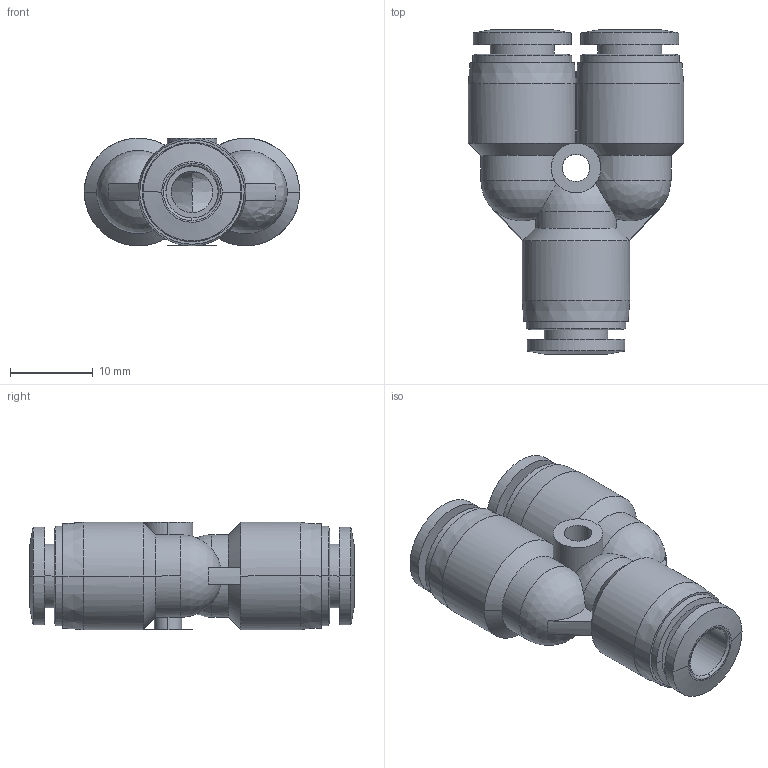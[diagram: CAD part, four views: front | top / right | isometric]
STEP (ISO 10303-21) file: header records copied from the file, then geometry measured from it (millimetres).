
FILE_DESCRIPTION (( 'STEP AP203' ), '1' );
FILE_NAME ('FY06-00.STEP', '2020-04-28T13:44:13', ( '' ), ( '' ), 'SwSTEP 2.0', 'SolidWorks 2019', '' );
FILE_SCHEMA (( 'CONFIG_CONTROL_DESIGN' ));
Length unit declared in the file: millimetre
Products named in the file (1): FY06-00
Bounding box: 26 x 39.2 x 13 mm (x, y, z)
Surface area: 4371.7 mm2 (no closed solid volume)
Topology: 0 solids, 2 shells, 106 faces, 253 edges, 160 vertices
Faces by surface type: bspline 39, cylinder 30, plane 18, cone 16, sphere 3
Full cylindrical faces by diameter (mm): 6 x1
Entity records: 5860 total; most frequent: CARTESIAN_POINT 3938, ORIENTED_EDGE 502, EDGE_CURVE 253, DIRECTION 175, B_SPLINE_CURVE_WITH_KNOTS 174, VERTEX_POINT 162, EDGE_LOOP 123, FACE_OUTER_BOUND 106
